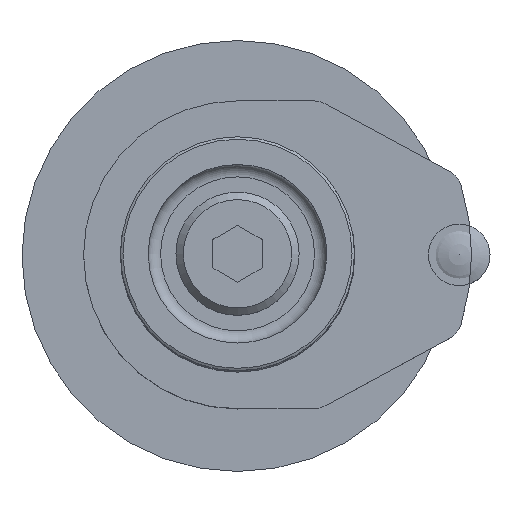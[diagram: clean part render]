
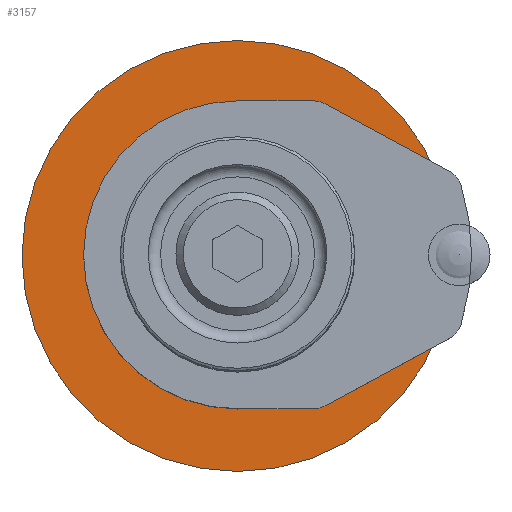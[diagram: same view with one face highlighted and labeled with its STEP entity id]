
A CAD part, top view. The second image highlights one B-rep face of the part: STEP entity #3157.
In plain terms, the highlighted planar face has unit normal (0, 0, 1).
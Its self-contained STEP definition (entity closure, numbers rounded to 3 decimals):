
#2838=PLANE('',#5938);
#2939=FACE_OUTER_BOUND('',#3775,.T.);
#3157=ADVANCED_FACE('',(#2939),#2838,.F.);
#3775=EDGE_LOOP('',(#4281));
#4281=ORIENTED_EDGE('',*,*,#5319,.F.);
#4982=VERTEX_POINT('',#7636);
#5319=EDGE_CURVE('',#4982,#4982,#5688,.T.);
#5688=CIRCLE('',#5936,17.5);
#5936=AXIS2_PLACEMENT_3D('',#7635,#6596,#6597);
#5938=AXIS2_PLACEMENT_3D('',#7638,#6600,#6601);
#6596=DIRECTION('',(0.,0.,-1.));
#6597=DIRECTION('',(0.,1.,0.));
#6600=DIRECTION('',(0.,0.,-1.));
#6601=DIRECTION('',(-1.,0.,0.));
#7635=CARTESIAN_POINT('',(0.,0.,70.));
#7636=CARTESIAN_POINT('',(0.,17.5,70.));
#7638=CARTESIAN_POINT('',(0.,0.,70.));
